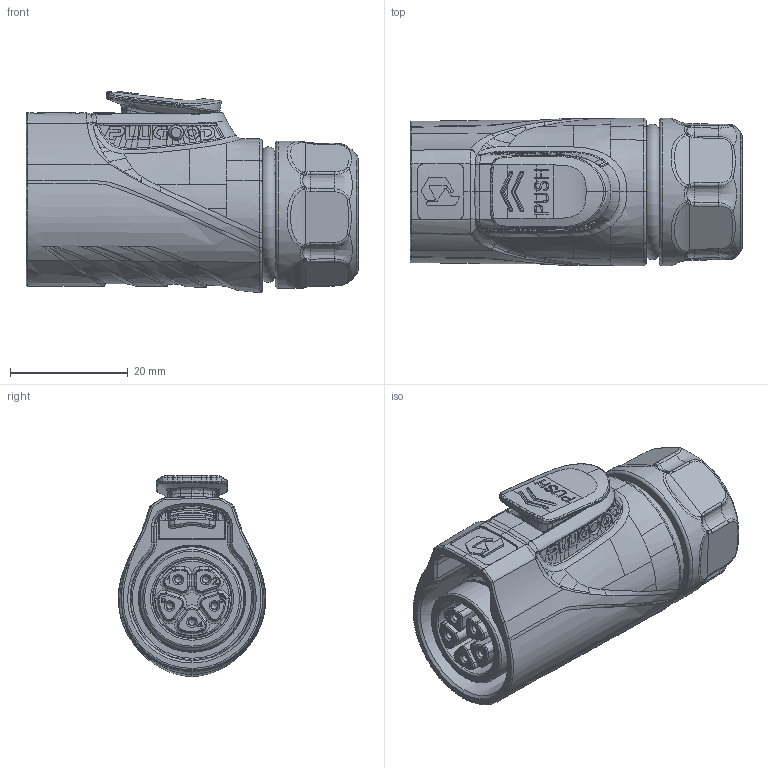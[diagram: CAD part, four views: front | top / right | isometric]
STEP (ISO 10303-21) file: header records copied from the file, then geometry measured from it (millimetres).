
FILE_DESCRIPTION (( 'STEP AP203' ), '1' );
FILE_NAME ('PLG16 5芯半金属插头反装焊接石头图.STEP', '2026-04-16T08:58:46', ( '' ), ( '' ), 'SwSTEP 2.0', 'SolidWorks 2024', '' );
FILE_SCHEMA (( 'CONFIG_CONTROL_DESIGN' ));
Products named in the file (1): PLG16 5芯半金属插头反装焊接石头图
Bounding box: 56.32 x 24.99 x 34.16 mm (x, y, z)
Volume: 25843.5 mm3; surface area: 10981.7 mm2
Topology: 2 solids, 2 shells, 1377 faces, 3761 edges, 2399 vertices
Faces by surface type: bspline 699, plane 352, cylinder 178, torus 93, cone 55
Full cylindrical faces by diameter (mm): 1.1 x5, 1.2 x5, 1.6 x1, 1.65 x5, 1.8 x5, 2.5 x1, 2.65 x1, 14.9 x2, 16.6 x2, 16.7 x4, 17.6 x1, 25 x1
Entity records: 97251 total; most frequent: CARTESIAN_POINT 68992, ORIENTED_EDGE 7298, EDGE_CURVE 3649, DIRECTION 3568, VERTEX_POINT 2361, B_SPLINE_CURVE_WITH_KNOTS 1988, EDGE_LOOP 1480, FACE_OUTER_BOUND 1423
